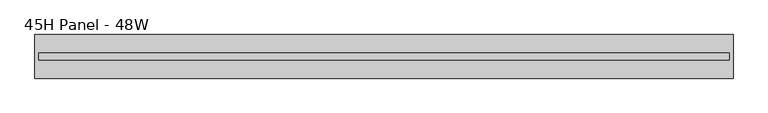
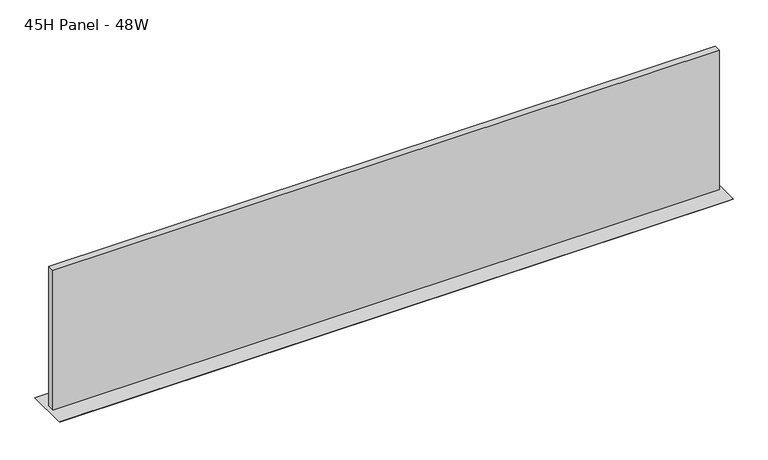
"""IFC4 building model written with IfcOpenShell, lengths in millimetres: furniture geometry, Steelcase - Montage - Tiles - 10H - Frameless Glass Stacker : 45H Panel - 48W."""

from ifc_helpers import new_model, si_unit, frame, origin, place, context, project, spatial, polyline, outline, extrude, faceted_brep, source, transform, mapped, element, save


def furniture_45h_panel_48w_7d8eba40(model_context):
    return source(origin(), model_context, "Body", "SolidModel", [
        faceted_brep([(1219.2, -38.1000015, 1136.65), (0.0, -38.1000015, 1136.65), (6.35, -31.7500015, 1130.3), (1212.85, -31.7500015, 1130.3), (6.35, 31.7500015, 1130.3), (1212.85, 31.7500015, 1130.3), (0.0, 38.1000015, 1136.65), (1219.2, 38.1000015, 1136.65)], [[[0, 1, 2, 3]], [[3, 2, 4, 5]], [[6, 7, 5, 4]], [[1, 0, 7, 6]], [[2, 1, 6, 4]], [[0, 3, 5, 7]]]),
        extrude(outline(polyline([(1212.4181828, -5.9944001), (6.7818001, -5.9944001), (6.7818001, 5.9944008), (1212.4181828, 5.9944008), (1212.4181828, -5.9944001)])), frame((0.0, 0.0, 1136.65), z_axis=(0.0, 0.0, 1.0), x_axis=(1.0, 0.0, 0.0)), (0.0, 0.0, 1.0), 267.7160475),
    ])


if __name__ == "__main__":
    model = new_model("IFC4")
    model_context = context("Model", 3, world=origin())
    ifc_project = project(units=[si_unit("LENGTHUNIT", "METRE", prefix="MILLI")], contexts=[model_context])
    site = spatial("IfcSite", under=ifc_project)
    building = spatial("IfcBuilding", under=site)
    placement = place(None, origin())
    furniture_45h_panel_48w_shape = furniture_45h_panel_48w_7d8eba40(model_context)
    element("IfcFurniture", 1, ObjectType="Steelcase - Montage - Tiles - 10H - Frameless Glass Stacker : 45H Panel - 48W", at=placement, inside=building, context=model_context, shape_type="MappedRepresentation", body=[
        mapped(furniture_45h_panel_48w_shape, transform((0.0, 0.0, 0.0), x_axis=(1.0, 0.0, 0.0), y_axis=(0.0, 1.0, 0.0), z_axis=(0.0, 0.0, 1.0))),
    ])
    save(model, "model.ifc")
